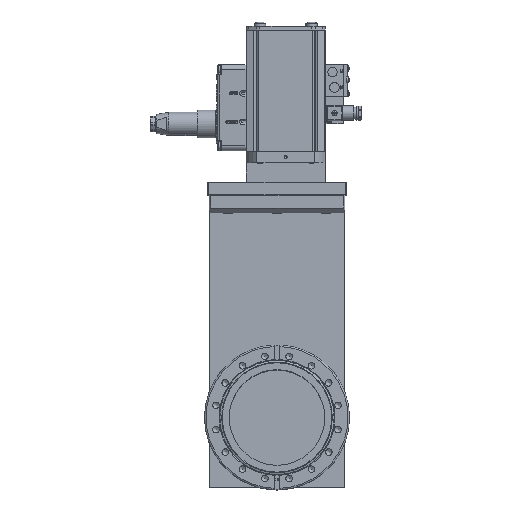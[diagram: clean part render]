
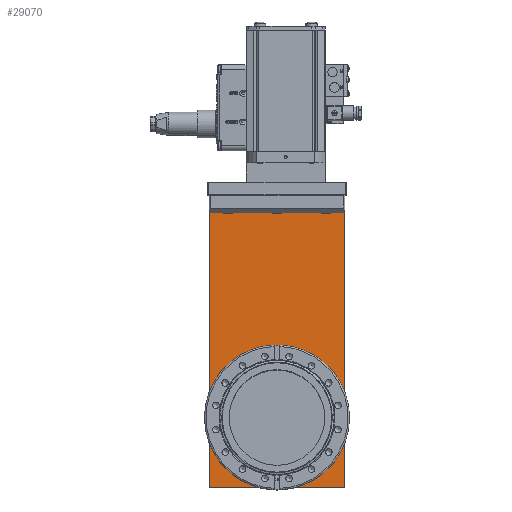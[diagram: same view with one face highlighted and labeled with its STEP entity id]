
A CAD part, top view. The second image highlights one B-rep face of the part: STEP entity #29070.
In plain terms, the highlighted planar face has unit normal (0, 0, 1).
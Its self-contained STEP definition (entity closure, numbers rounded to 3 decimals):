
#9724=LINE('',#92318,#14384);
#9726=LINE('',#92323,#14386);
#9731=LINE('',#92336,#14391);
#9732=LINE('',#92337,#14392);
#14384=VECTOR('',#76215,1.);
#14386=VECTOR('',#76219,1.);
#14391=VECTOR('',#76232,1.);
#14392=VECTOR('',#76233,1.);
#24067=PLANE('',#68973);
#29070=ADVANCED_FACE('',(#32555,#32556),#24067,.F.);
#32555=FACE_BOUND('',#34851,.T.);
#32556=FACE_BOUND('',#34852,.T.);
#34851=EDGE_LOOP('',(#41382));
#34852=EDGE_LOOP('',(#41383,#41384,#41385,#41386));
#41382=ORIENTED_EDGE('',*,*,#60274,.T.);
#41383=ORIENTED_EDGE('',*,*,#60275,.F.);
#41384=ORIENTED_EDGE('',*,*,#60266,.F.);
#41385=ORIENTED_EDGE('',*,*,#60276,.F.);
#41386=ORIENTED_EDGE('',*,*,#60268,.F.);
#54382=VERTEX_POINT('',#92313);
#54384=VERTEX_POINT('',#92317);
#54385=VERTEX_POINT('',#92321);
#54387=VERTEX_POINT('',#92324);
#54390=VERTEX_POINT('',#92335);
#60266=EDGE_CURVE('',#54384,#54382,#9724,.T.);
#60268=EDGE_CURVE('',#54385,#54387,#9726,.T.);
#60274=EDGE_CURVE('',#54390,#54390,#66447,.T.);
#60275=EDGE_CURVE('',#54382,#54385,#9731,.T.);
#60276=EDGE_CURVE('',#54387,#54384,#9732,.T.);
#66447=CIRCLE('',#68972,50.3);
#68972=AXIS2_PLACEMENT_3D('',#92334,#76230,#76231);
#68973=AXIS2_PLACEMENT_3D('',#92338,#76234,#76235);
#76215=DIRECTION('',(0.,-1.,0.));
#76219=DIRECTION('',(0.,1.,0.));
#76230=DIRECTION('',(0.,0.,-1.));
#76231=DIRECTION('',(-1.,0.,0.));
#76232=DIRECTION('',(-1.,0.,0.));
#76233=DIRECTION('',(1.,0.,0.));
#76234=DIRECTION('',(0.,0.,-1.));
#76235=DIRECTION('',(-1.,0.,0.));
#92313=CARTESIAN_POINT('',(71.15,-232.65,26.975));
#92317=CARTESIAN_POINT('',(71.15,73.05,26.975));
#92318=CARTESIAN_POINT('',(71.15,73.05,26.975));
#92321=CARTESIAN_POINT('',(-71.15,-232.65,26.975));
#92323=CARTESIAN_POINT('',(-71.15,-234.1,26.975));
#92324=CARTESIAN_POINT('',(-71.15,73.05,26.975));
#92334=CARTESIAN_POINT('',(0.,0.,26.975));
#92335=CARTESIAN_POINT('',(-50.3,0.,26.975));
#92336=CARTESIAN_POINT('',(0.,-232.65,26.975));
#92337=CARTESIAN_POINT('',(-71.15,73.05,26.975));
#92338=CARTESIAN_POINT('',(0.,0.,26.975));
